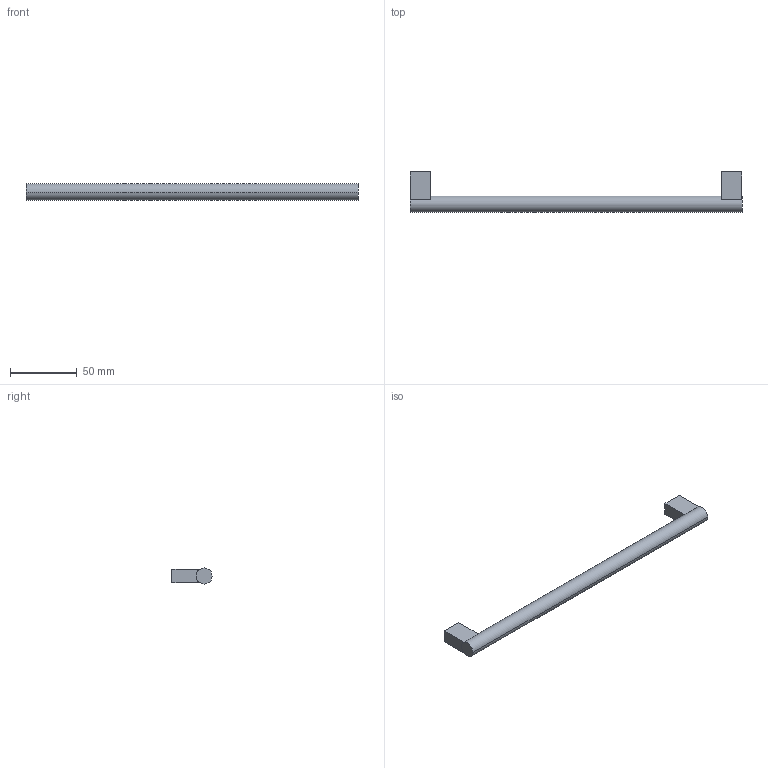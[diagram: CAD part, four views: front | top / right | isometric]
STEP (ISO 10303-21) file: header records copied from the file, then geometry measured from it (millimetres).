
FILE_DESCRIPTION( ( '' ), '1' );
FILE_NAME( 'C:/Documents and Settings/Nikhil/Desktop/Nik/Done/9995501.stp', '2013-10-24T05:51:58', ( '' ), ( '' ), ' ', ' ', ' ' );
FILE_SCHEMA( ( 'automotive_design' ) );
Length unit declared in the file: millimetre
Products named in the file (1): 1
Bounding box: 248 x 30 x 12 mm (x, y, z)
Volume: 33485.7 mm3; surface area: 11714.8 mm2
Topology: 1 solids, 1 shells, 20 faces, 48 edges, 32 vertices
Faces by surface type: plane 14, cylinder 6
Entity records: 1176 total; most frequent: DIRECTION 110, STYLED_ITEM 101, PRESENTATION_STYLE_ASSIGNMENT 101, CARTESIAN_POINT 101, COLOUR_RGB 101, ORIENTED_EDGE 96, EDGE_CURVE 48, CURVE_STYLE 48
